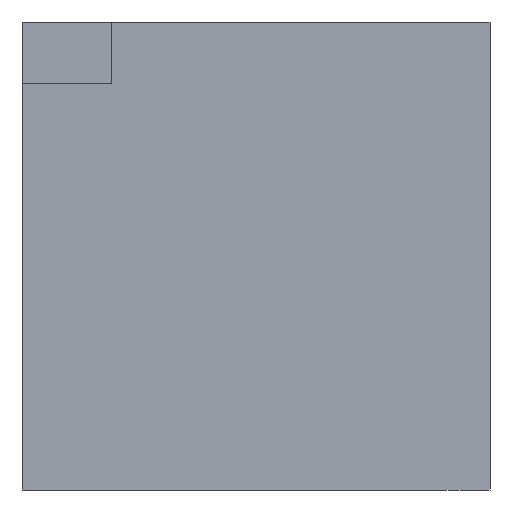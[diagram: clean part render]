
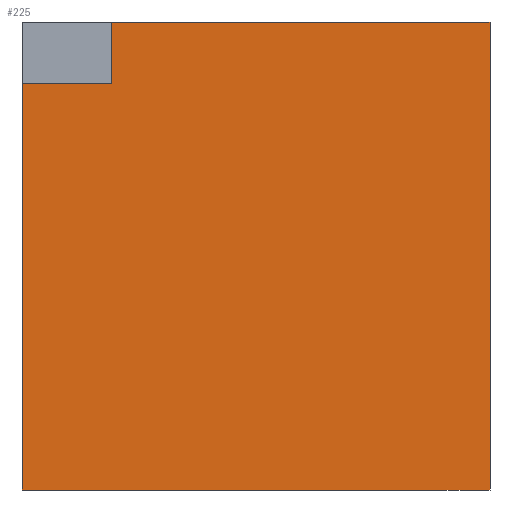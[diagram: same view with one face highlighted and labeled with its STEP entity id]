
A CAD part, front view. The second image highlights one B-rep face of the part: STEP entity #225.
In plain terms, the highlighted planar face has unit normal (0, -1, 0).
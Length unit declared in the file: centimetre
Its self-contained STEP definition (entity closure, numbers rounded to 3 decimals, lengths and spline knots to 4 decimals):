
#22 = CARTESIAN_POINT ( 'NONE',  ( 0., 0., 0. ) ) ;
#82 = EDGE_CURVE ( 'NONE', #1544, #1474, #440, .T. ) ;
#98 = EDGE_CURVE ( 'NONE', #1382, #1474, #1234, .T. ) ;
#116 = EDGE_LOOP ( 'NONE', ( #1425, #1707, #1388, #776, #717, #278 ) ) ;
#135 = DIRECTION ( 'NONE',  ( 0., 0., -1. ) ) ;
#142 = DIRECTION ( 'NONE',  ( 0., 0., -1. ) ) ;
#168 = EDGE_CURVE ( 'NONE', #1452, #1382, #972, .T. ) ;
#215 = FACE_OUTER_BOUND ( 'NONE', #116, .T. ) ;
#225 = ADVANCED_FACE ( 'NONE', ( #215 ), #643, .F. ) ;
#278 = ORIENTED_EDGE ( 'NONE', *, *, #82, .F. ) ;
#294 = VERTEX_POINT ( 'NONE', #1586 ) ;
#309 = DIRECTION ( 'NONE',  ( 1., 0., 0. ) ) ;
#440 = LINE ( 'NONE', #980, #1148 ) ;
#463 = CARTESIAN_POINT ( 'NONE',  ( 1000., 0., 1000. ) ) ;
#508 = CARTESIAN_POINT ( 'NONE',  ( 0., 0., 1000. ) ) ;
#562 = LINE ( 'NONE', #1110, #1152 ) ;
#605 = CARTESIAN_POINT ( 'NONE',  ( 0., 0., 868.2313 ) ) ;
#643 = PLANE ( 'NONE',  #1231 ) ;
#648 = CARTESIAN_POINT ( 'NONE',  ( 0., 0., 1000. ) ) ;
#691 = CARTESIAN_POINT ( 'NONE',  ( 0., 0., 0. ) ) ;
#717 = ORIENTED_EDGE ( 'NONE', *, *, #98, .T. ) ;
#734 = DIRECTION ( 'NONE',  ( 1., 0., 0. ) ) ;
#755 = DIRECTION ( 'NONE',  ( 1., 0., 0. ) ) ;
#758 = DIRECTION ( 'NONE',  ( 0., 0., 1. ) ) ;
#776 = ORIENTED_EDGE ( 'NONE', *, *, #168, .T. ) ;
#915 = EDGE_CURVE ( 'NONE', #1239, #294, #562, .T. ) ;
#968 = VECTOR ( 'NONE', #309, 100. ) ;
#972 = LINE ( 'NONE', #1352, #1436 ) ;
#980 = CARTESIAN_POINT ( 'NONE',  ( 1000., 0., 1000. ) ) ;
#990 = LINE ( 'NONE', #1398, #1532 ) ;
#1110 = CARTESIAN_POINT ( 'NONE',  ( 191.234, 0., 868.2313 ) ) ;
#1148 = VECTOR ( 'NONE', #142, 100. ) ;
#1152 = VECTOR ( 'NONE', #1649, 100. ) ;
#1197 = CARTESIAN_POINT ( 'NONE',  ( 191.234, 0., 868.2313 ) ) ;
#1231 = AXIS2_PLACEMENT_3D ( 'NONE', #508, #1552, #758 ) ;
#1234 = LINE ( 'NONE', #22, #968 ) ;
#1239 = VERTEX_POINT ( 'NONE', #1197 ) ;
#1247 = VECTOR ( 'NONE', #755, 100. ) ;
#1335 = LINE ( 'NONE', #648, #1247 ) ;
#1352 = CARTESIAN_POINT ( 'NONE',  ( 0., 0., 1000. ) ) ;
#1382 = VERTEX_POINT ( 'NONE', #691 ) ;
#1388 = ORIENTED_EDGE ( 'NONE', *, *, #1511, .F. ) ;
#1398 = CARTESIAN_POINT ( 'NONE',  ( 0., 0., 868.2313 ) ) ;
#1425 = ORIENTED_EDGE ( 'NONE', *, *, #1602, .F. ) ;
#1436 = VECTOR ( 'NONE', #135, 100. ) ;
#1452 = VERTEX_POINT ( 'NONE', #605 ) ;
#1474 = VERTEX_POINT ( 'NONE', #1701 ) ;
#1511 = EDGE_CURVE ( 'NONE', #1452, #1239, #990, .T. ) ;
#1532 = VECTOR ( 'NONE', #734, 100. ) ;
#1544 = VERTEX_POINT ( 'NONE', #463 ) ;
#1552 = DIRECTION ( 'NONE',  ( 0., 1., 0. ) ) ;
#1586 = CARTESIAN_POINT ( 'NONE',  ( 191.234, 0., 1000. ) ) ;
#1602 = EDGE_CURVE ( 'NONE', #294, #1544, #1335, .T. ) ;
#1649 = DIRECTION ( 'NONE',  ( 0., 0., 1. ) ) ;
#1701 = CARTESIAN_POINT ( 'NONE',  ( 1000., 0., 0. ) ) ;
#1707 = ORIENTED_EDGE ( 'NONE', *, *, #915, .F. ) ;
